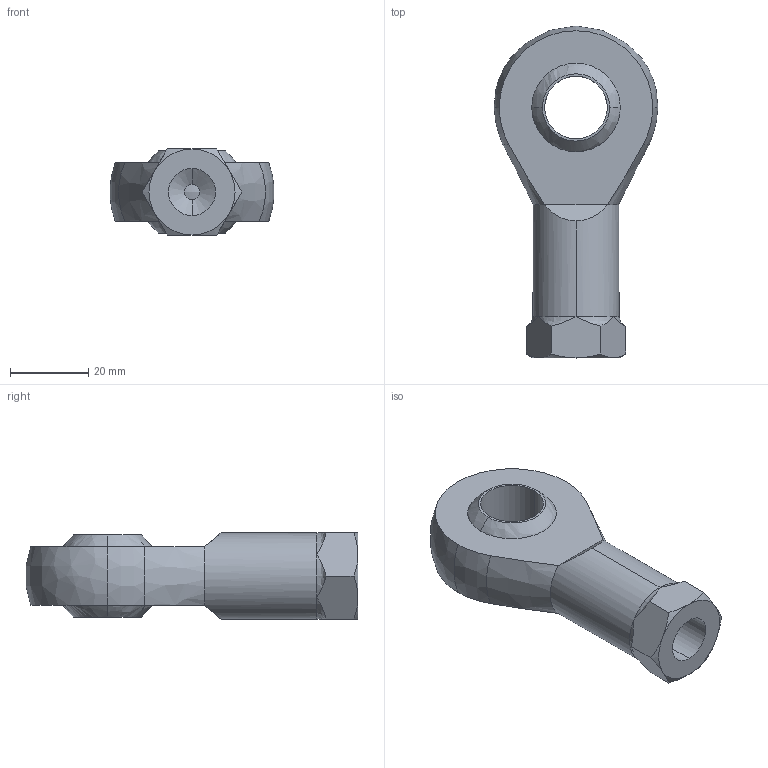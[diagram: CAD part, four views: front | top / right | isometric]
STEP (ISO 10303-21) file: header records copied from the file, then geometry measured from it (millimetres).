
FILE_DESCRIPTION (( 'STEP AP203' ), '1' );
FILE_NAME ('TSF16.STEP', '2013-09-19T09:34:40', ( '' ), ( '' ), 'SwSTEP 2.0', 'SolidWorks 2010', '' );
FILE_SCHEMA (( 'CONFIG_CONTROL_DESIGN' ));
Length unit declared in the file: millimetre
Products named in the file (1): TSF16
Bounding box: 41.89 x 84.84 x 22 mm (x, y, z)
Volume: 30679 mm3; surface area: 12606.1 mm2
Topology: 2 solids, 2 shells, 44 faces, 106 edges, 62 vertices
Faces by surface type: bspline 17, cone 10, plane 9, cylinder 8
Entity records: 2219 total; most frequent: CARTESIAN_POINT 1231, ORIENTED_EDGE 204, DIRECTION 170, EDGE_CURVE 102, AXIS2_PLACEMENT_3D 76, VERTEX_POINT 62, EDGE_LOOP 50, CIRCLE 48
